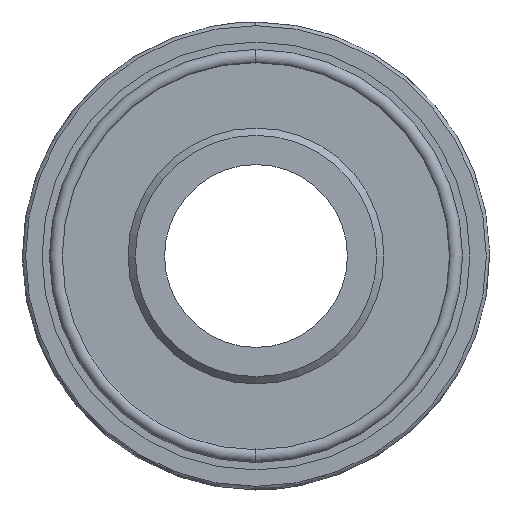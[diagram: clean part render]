
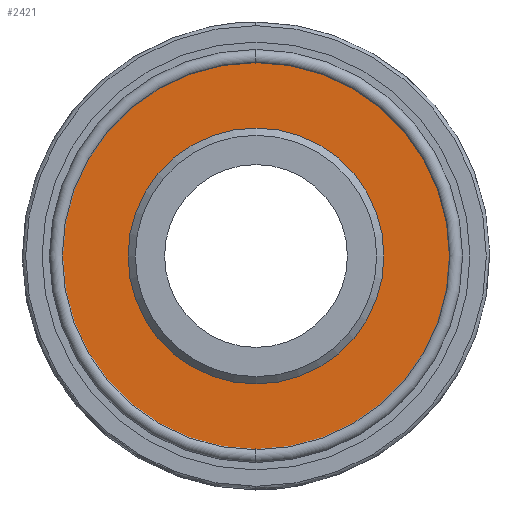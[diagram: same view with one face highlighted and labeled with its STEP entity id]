
A CAD part, left-side view. The second image highlights one B-rep face of the part: STEP entity #2421.
In plain terms, the highlighted planar face has unit normal (-1, 0, 0).
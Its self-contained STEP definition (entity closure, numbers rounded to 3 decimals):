
#2421=ADVANCED_FACE('',(#3004,#3005),#2835,.T.);
#2835=PLANE('',#7764);
#3004=FACE_BOUND('',#3090,.T.);
#3005=FACE_BOUND('',#3091,.T.);
#3090=EDGE_LOOP('',(#3558));
#3091=EDGE_LOOP('',(#3559));
#3558=ORIENTED_EDGE('',*,*,#6543,.F.);
#3559=ORIENTED_EDGE('',*,*,#6544,.F.);
#5792=VERTEX_POINT('',#9521);
#5793=VERTEX_POINT('',#9523);
#6543=EDGE_CURVE('',#5792,#5792,#7660,.T.);
#6544=EDGE_CURVE('',#5793,#5793,#7661,.T.);
#7660=CIRCLE('',#7762,17.5);
#7661=CIRCLE('',#7763,26.5);
#7762=AXIS2_PLACEMENT_3D('',#9520,#8181,#8182);
#7763=AXIS2_PLACEMENT_3D('',#9522,#8183,#8184);
#7764=AXIS2_PLACEMENT_3D('',#9524,#8185,#8186);
#8181=DIRECTION('',(-1.,0.,0.));
#8182=DIRECTION('',(0.,-1.,0.));
#8183=DIRECTION('',(1.,0.,0.));
#8184=DIRECTION('',(0.,-1.,0.));
#8185=DIRECTION('',(-1.,0.,0.));
#8186=DIRECTION('',(0.,1.,0.));
#9520=CARTESIAN_POINT('',(1.,0.,0.));
#9521=CARTESIAN_POINT('',(1.,-17.5,0.));
#9522=CARTESIAN_POINT('',(1.,0.,0.));
#9523=CARTESIAN_POINT('',(1.,-26.5,0.));
#9524=CARTESIAN_POINT('',(1.,0.,0.));
